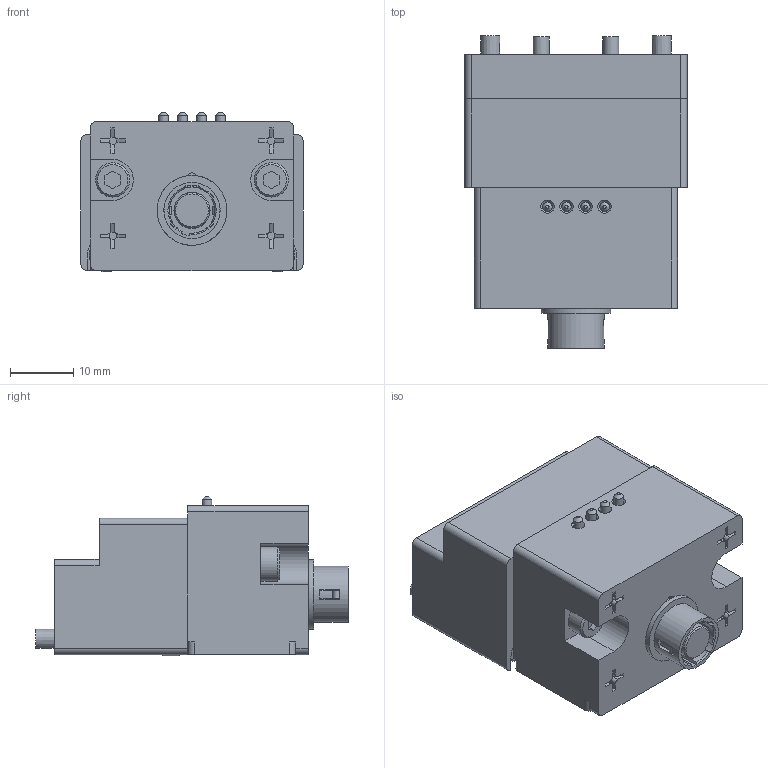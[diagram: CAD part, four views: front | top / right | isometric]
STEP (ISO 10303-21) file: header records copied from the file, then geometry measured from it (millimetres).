
FILE_DESCRIPTION(('STEP AP214'),'1');
FILE_NAME('KHG-12HS-D14C_ver1.stp','2026-05-18T00:33:27',(' '),(' '),'Spatial InterOp 3D',' ',' ');
FILE_SCHEMA(('AUTOMOTIVE_DESIGN { 1 0 10303 214 1 1 1 1 }'));
Length unit declared in the file: millimetre
Products named in the file (1): KHG-12HS-D14C_ver1
Bounding box: 35 x 49.3 x 25.2 mm (x, y, z)
Volume: 27917.5 mm3; surface area: 8989.7 mm2
Topology: 1 solids, 21 shells, 523 faces, 1303 edges, 841 vertices
Faces by surface type: plane 364, cylinder 125, cone 34
Full cylindrical faces by diameter (mm): 0.8 x2, 1.5 x4, 2.15 x6, 2.5 x7, 3 x10, 3.5 x4, 5.41 x4, 5.6 x1, 5.7 x1, 8 x1, 8.85 x1, 11 x1
Entity records: 20580 total; most frequent: CARTESIAN_POINT 2600, DIRECTION 2577, ORIENTED_EDGE 2416, EDGE_CURVE 1208, LINE 863, VECTOR 863, AXIS2_PLACEMENT_3D 857, VERTEX_POINT 818
